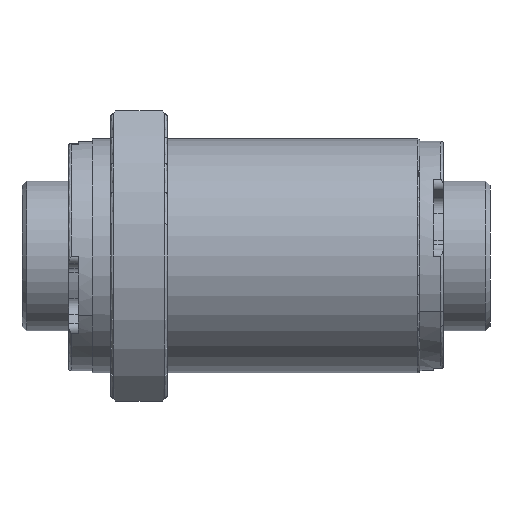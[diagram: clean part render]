
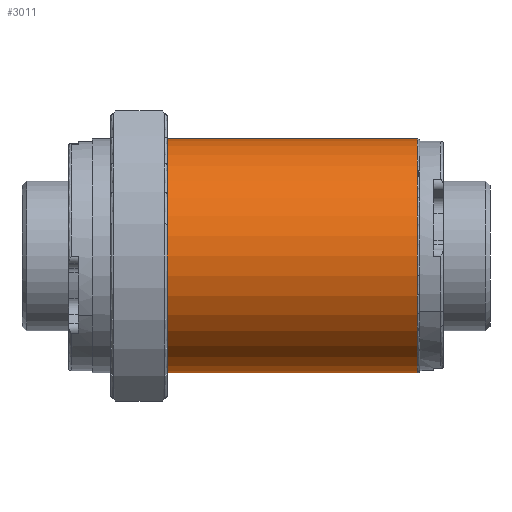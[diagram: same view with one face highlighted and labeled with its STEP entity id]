
A CAD part, front view. The second image highlights one B-rep face of the part: STEP entity #3011.
In plain terms, the highlighted cylindrical face has radius 25 mm (diameter 50 mm), a partial arc.
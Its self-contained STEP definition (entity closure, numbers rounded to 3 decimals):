
#372 = AXIS2_PLACEMENT_3D ( 'NONE', #5419, #2037, #1515 ) ;
#392 = CARTESIAN_POINT ( 'NONE',  ( 67.5, 0., -25. ) ) ;
#558 = CIRCLE ( 'NONE', #372, 25. ) ;
#588 = AXIS2_PLACEMENT_3D ( 'NONE', #1601, #2693, #6052 ) ;
#596 = LINE ( 'NONE', #5331, #5609 ) ;
#1025 = ORIENTED_EDGE ( 'NONE', *, *, #1130, .F. ) ;
#1056 = CARTESIAN_POINT ( 'NONE',  ( 50., 0., 0. ) ) ;
#1130 = EDGE_CURVE ( 'NONE', #4953, #5008, #558, .T. ) ;
#1269 = EDGE_LOOP ( 'NONE', ( #4169, #2335, #5152, #1025 ) ) ;
#1360 = FACE_OUTER_BOUND ( 'NONE', #1269, .T. ) ;
#1441 = CARTESIAN_POINT ( 'NONE',  ( 67.5, 0., 25. ) ) ;
#1504 = DIRECTION ( 'NONE',  ( -1., 0., 0. ) ) ;
#1515 = DIRECTION ( 'NONE',  ( 0., 0., 1. ) ) ;
#1601 = CARTESIAN_POINT ( 'NONE',  ( 67.5, 0., 0. ) ) ;
#2037 = DIRECTION ( 'NONE',  ( -1., 0., 0. ) ) ;
#2335 = ORIENTED_EDGE ( 'NONE', *, *, #3164, .T. ) ;
#2693 = DIRECTION ( 'NONE',  ( -1., 0., 0. ) ) ;
#2757 = CARTESIAN_POINT ( 'NONE',  ( 50., 0., 25. ) ) ;
#2776 = DIRECTION ( 'NONE',  ( -1., 0., 0. ) ) ;
#2887 = CARTESIAN_POINT ( 'NONE',  ( 14., 0., -25. ) ) ;
#2983 = VERTEX_POINT ( 'NONE', #1441 ) ;
#3011 = ADVANCED_FACE ( 'NONE', ( #1360 ), #4686, .T. ) ;
#3048 = CARTESIAN_POINT ( 'NONE',  ( 14., 0., 25. ) ) ;
#3164 = EDGE_CURVE ( 'NONE', #5740, #2983, #5631, .T. ) ;
#3363 = VECTOR ( 'NONE', #2776, 1000. ) ;
#4012 = EDGE_CURVE ( 'NONE', #5740, #4953, #596, .T. ) ;
#4169 = ORIENTED_EDGE ( 'NONE', *, *, #4012, .F. ) ;
#4188 = LINE ( 'NONE', #2757, #3363 ) ;
#4283 = DIRECTION ( 'NONE',  ( -1., 0., 0. ) ) ;
#4373 = DIRECTION ( 'NONE',  ( 0., 0., 1. ) ) ;
#4686 = CYLINDRICAL_SURFACE ( 'NONE', #5502, 25. ) ;
#4953 = VERTEX_POINT ( 'NONE', #2887 ) ;
#5008 = VERTEX_POINT ( 'NONE', #3048 ) ;
#5152 = ORIENTED_EDGE ( 'NONE', *, *, #5720, .T. ) ;
#5331 = CARTESIAN_POINT ( 'NONE',  ( 50., 0., -25. ) ) ;
#5419 = CARTESIAN_POINT ( 'NONE',  ( 14., 0., 0. ) ) ;
#5502 = AXIS2_PLACEMENT_3D ( 'NONE', #1056, #1504, #4373 ) ;
#5609 = VECTOR ( 'NONE', #4283, 1000. ) ;
#5631 = CIRCLE ( 'NONE', #588, 25. ) ;
#5720 = EDGE_CURVE ( 'NONE', #2983, #5008, #4188, .T. ) ;
#5740 = VERTEX_POINT ( 'NONE', #392 ) ;
#6052 = DIRECTION ( 'NONE',  ( 0., 0., -1. ) ) ;
